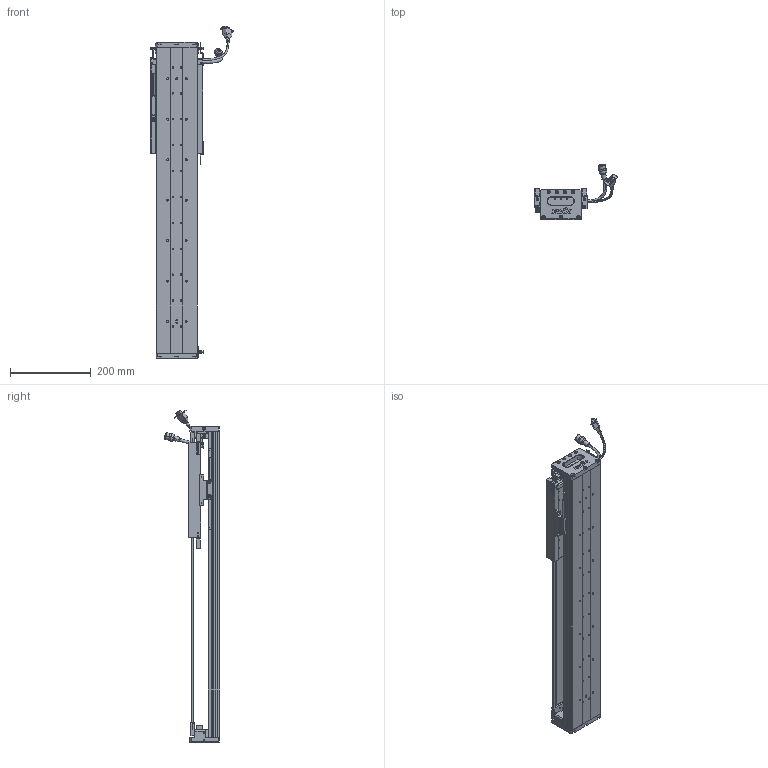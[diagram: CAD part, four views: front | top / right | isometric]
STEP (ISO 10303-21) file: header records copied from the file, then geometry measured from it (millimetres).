
FILE_DESCRIPTION (( 'STEP AP203' ), '1' );
FILE_NAME ('Z3-RY100D-1-L500-B-K.SLDASM_0450.step', '2021-05-17T02:49:39', ( '盈信电脑' ), ( '东莞市道滘镇水果街19号' ), 'SwSTEP 2.0', 'SolidWorks 2016', '' );
FILE_SCHEMA (( 'CONFIG_CONTROL_DESIGN' ));
Length unit declared in the file: millimetre
Products named in the file (36): SCREW-M1.7-1; SEAL-Part-1; 100-Z-臏賑輸盄裔(21遴); 140蚥薯蝶輸; HARNESS-Part-2; Z-100詩湍傷裔啣; PSLH080_PSLF2; LABEL; Z3-RY100D-1-L500-B-K.SLDASM_0450; SCREW-M1.6; Z3-RY100-L500詩湍90mm遵_0450; SCREW-M1.7; LABEL-Part-1; 080黍杅芛假蚾釱21遴; SCREW-M1.6-2; COVER-Part-1; HARNESS; SHIELDPLATE; Z3-RY100D-500-倰第菁釱_0450; SCREW-M1.6-1; 140雄赽晤鎢ん堤盄; SEAL; Z-RY100D詩湍奻揤裔; PBU_SHEET; HOLDER0; SCALE-Part-2; SCALE-Part-1; SCREW-M1.6-3; Z3-RY100铝滑块（21款）; SCALE; 榋妏寠巭燃_暯_M2_2; Z-RY100D覜茼んえ; HARNESS-Part-1; 覜茼ん672; COVER; Z-RY100D詩湍狟揤裔
Assembly tree (43 placements, depth 4):
  Z3-RY100D-1-L500-B-K.SLDASM_0450
    Z3-RY100D-500-倰第菁釱_0450
    Z3-RY100铝滑块（21款）
    PSLH080_PSLF2
      SCALE
        SCALE-Part-1
        SCALE-Part-2
      HARNESS
        HARNESS-Part-1
        HARNESS-Part-2
      LABEL
        LABEL-Part-1
      COVER
        COVER-Part-1
      SEAL
        SEAL-Part-1
      榋妏寠巭燃_暯_M2_2
      SHIELDPLATE
      SCREW-M1.7
      SCREW-M1.7-1
      PBU_SHEET
      SCREW-M1.6
      SCREW-M1.6-1
      SCREW-M1.6-2
      SCREW-M1.6-3
      HOLDER0
    080黍杅芛假蚾釱21遴
    Z-100詩湍傷裔啣  x2
    140蚥薯蝶輸  x2
    覜茼ん672  x3
    Z-RY100D覜茼んえ  x3
    100-Z-臏賑輸盄裔(21遴)
    140雄赽晤鎢ん堤盄
    Z3-RY100-L500詩湍90mm遵_0450
    Z-RY100D詩湍狟揤裔  x2
    Z-RY100D詩湍奻揤裔  x2
Bounding box: 205.84 x 136.11 x 820.43 mm (x, y, z)
Volume: 1935700 mm3; surface area: 724235.9 mm2
Topology: 38 solids, 38 shells, 2497 faces, 6487 edges, 4092 vertices
Faces by surface type: plane 1107, cylinder 1042, cone 226, torus 69, bspline 53
Entity records: 66697 total; most frequent: CARTESIAN_POINT 14081, DIRECTION 10505, ORIENTED_EDGE 9854, EDGE_CURVE 4927, AXIS2_PLACEMENT_3D 3836, VERTEX_POINT 3160, VECTOR 2833, LINE 2833
